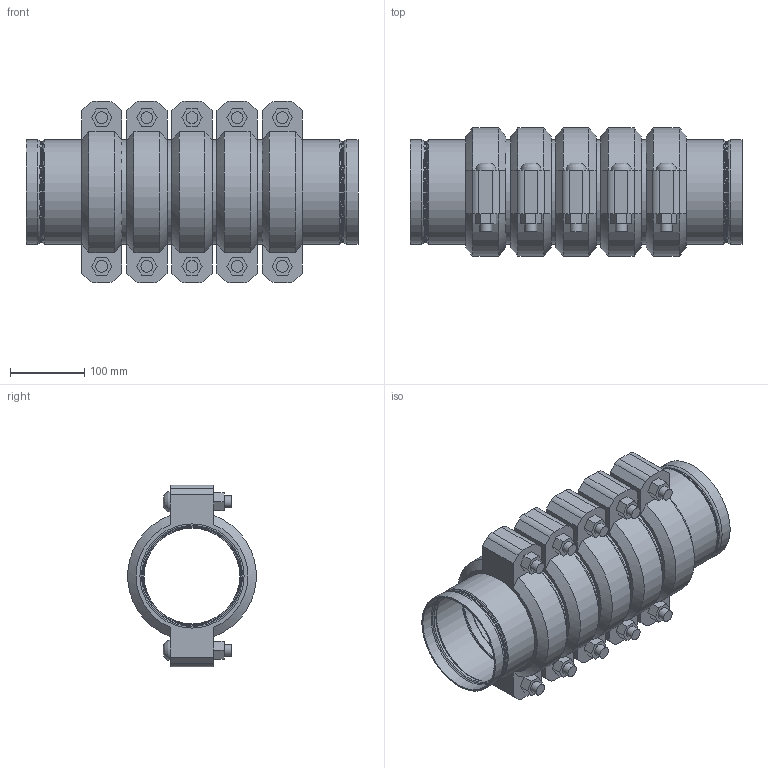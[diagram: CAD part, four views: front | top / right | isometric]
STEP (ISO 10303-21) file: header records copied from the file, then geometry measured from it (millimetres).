
FILE_DESCRIPTION(/* description */ ('VIC STRENGTHIN 100 EXPANSION JOINT 5 COUPLINGS COMPRESSED STYLE E155 (ST1)','CAx-IF Rec.Pracs.---Representation and Presentation of Product Manufacturing Information (PMI)---4.0---2014-10-13'),/* implementation_level */ '2;1');
FILE_NAME(/* name */ 'C:\Users\Vjadhav\AppData\Roaming\Autodesk\ApplicationPlugins\Victaulic.Temp\A149\Victaulic_SS-StrengThin 100_Expansion Joint_Compressed_5 Couplings_Style E155 (ST1)_05.0 (139.7) (125).stp',/* time_stamp */ '2021-07-23T12:32:42+05:00',/* author */ ('kkamble'),/* organization */ ('Victaulic'),/* preprocessor_version */ 'ST-DEVELOPER v17.2',/* originating_system */ 'Autodesk Inventor 2019',/* authorisation */ '');
FILE_SCHEMA (('AP242_MANAGED_MODEL_BASED_3D_ENGINEERING_MIM_LF { 1 0 10303 442 1 1 4 }'));
Length unit declared in the file: inch
Products named in the file (4): E155-05.0 (139.7); E494G-05.0 (139.7); Nipple-05.0 (139.7); 075-05.0 (139.7)
Assembly tree (11 placements, depth 2):
  E155-05.0 (139.7)
    E494G-05.0 (139.7)  x2
    Nipple-05.0 (139.7)  x4
    075-05.0 (139.7)  x5
Bounding box: 445.77 x 172.14 x 243.59 mm (x, y, z)
Volume: 3861796.1 mm3; surface area: 901880.5 mm2
Topology: 11 solids, 21 shells, 381 faces, 977 edges, 692 vertices
Faces by surface type: plane 206, cylinder 109, torus 32, cone 24, bspline 10
Full cylindrical faces by diameter (mm): 15.875 x20, 17.424 x10, 128.194 x4, 130.505 x2, 131.47 x2, 134.518 x2, 135.484 x10, 135.687 x6, 139.7 x23
Entity records: 3647 total; most frequent: DIRECTION 647, CARTESIAN_POINT 643, ORIENTED_EDGE 536, AXIS2_PLACEMENT_3D 275, EDGE_CURVE 268, VERTEX_POINT 193, CIRCLE 163, EDGE_LOOP 123
